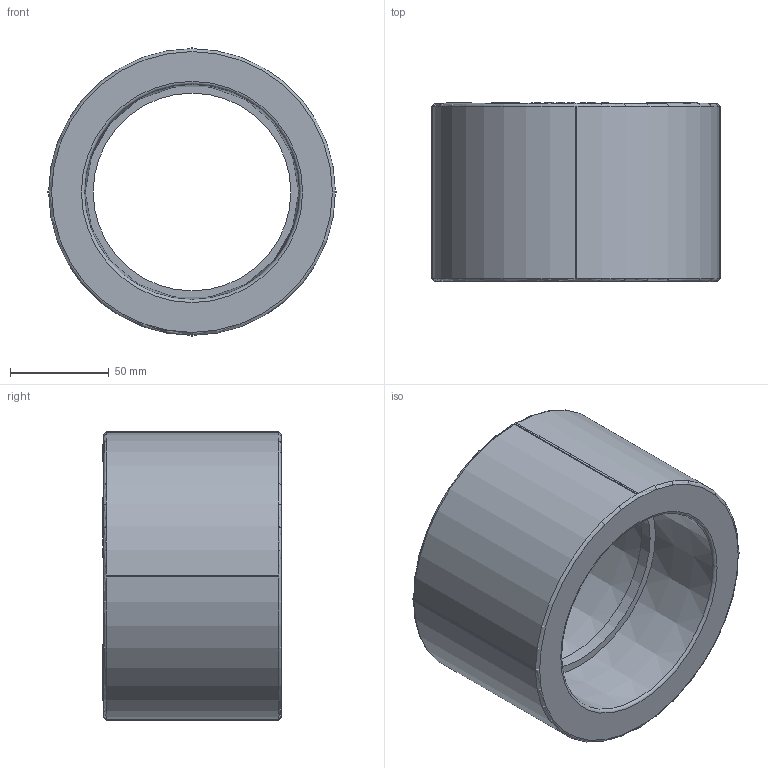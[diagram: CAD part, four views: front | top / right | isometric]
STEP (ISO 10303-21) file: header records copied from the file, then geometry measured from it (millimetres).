
FILE_DESCRIPTION(('STEP AP203'), '1');
FILE_NAME('ÂÐ.713151.009 - VTp.703.0.110', '', ('UNSPECIFIED'), ('UNSPECIFIED'), 'C3D Converter', 'C3D Toolkit', '');
FILE_SCHEMA(('CONFIG_CONTROL_DESIGN'));
Length unit declared in the file: millimetre
Products named in the file (1): ВР.713151.009
Bounding box: 146 x 90.5 x 146 mm (x, y, z)
Volume: 665818.6 mm3; surface area: 87957.7 mm2
Topology: 1 solids, 1 shells, 560 faces, 1557 edges, 1032 vertices
Faces by surface type: extrusion 317, plane 232, cylinder 5, torus 4, cone 2
Full cylindrical faces by diameter (mm): 100 x1
Entity records: 18188 total; most frequent: CARTESIAN_POINT 5045, ORIENTED_EDGE 3100, DIRECTION 1749, EDGE_CURVE 1550, VECTOR 1205, VERTEX_POINT 1032, B_SPLINE_CURVE_WITH_KNOTS 951, LINE 888
